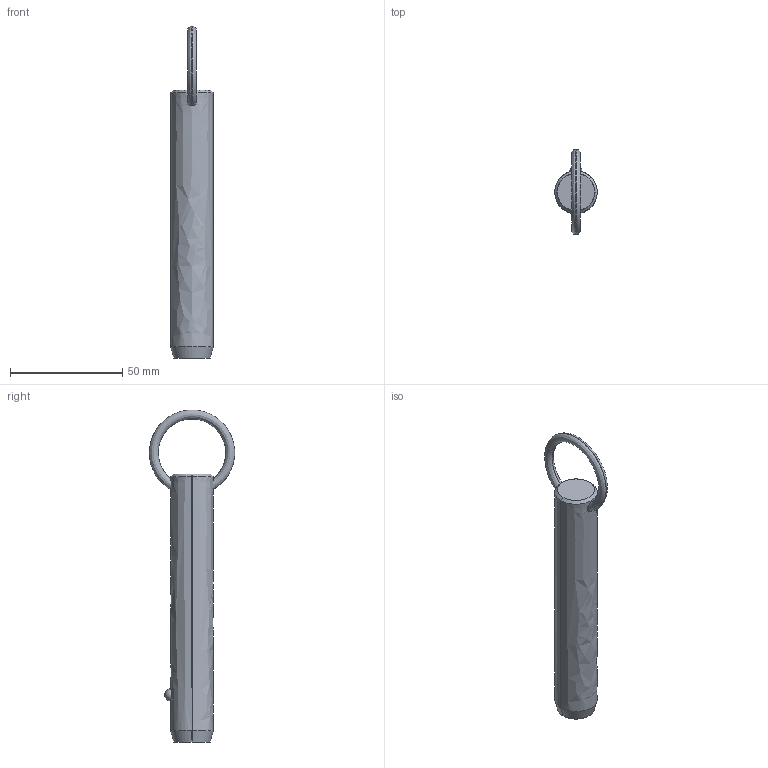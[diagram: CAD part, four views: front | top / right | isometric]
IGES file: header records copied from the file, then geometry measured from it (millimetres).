
Start section: SolidWorks IGES file using analytic representation for surfaces
Global section: file name: C:\Users\liam_\OneDrive\Documents\WORK\Work for WixRoyd\Job Files\J-00019 - Matt Davis CAD Checking\04. CAD Drawings\automotion20190605\P1250.2_v2\P1250.2_v2_20190729_IGES\P1250.075-340.igs; native system: SolidWorks 2017; preprocessor: SolidWorks 2017; author: liam_; date: 190729.235228; units: millimetre
Bounding box: 19 x 38.1 x 148.19 mm (x, y, z)
Surface area: 8671.8 mm2 (no closed solid volume)
Topology: 0 solids, 0 shells, 12 faces, 294 edges, 292 vertices
Faces by surface type: revolution 8, bspline 4
